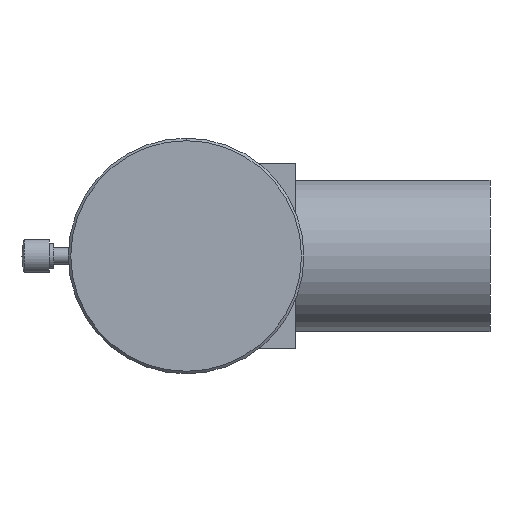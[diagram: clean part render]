
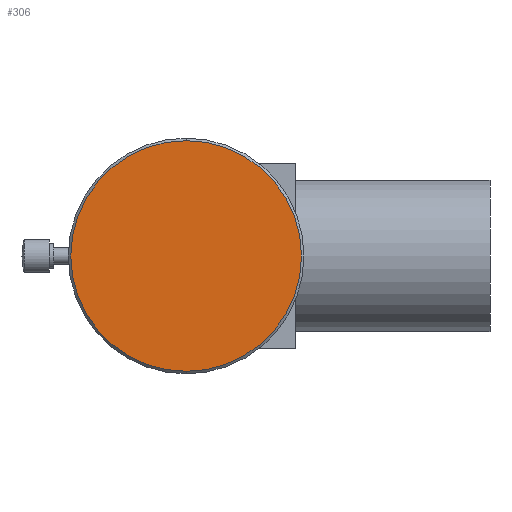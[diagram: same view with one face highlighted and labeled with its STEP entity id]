
A CAD part, left-side view. The second image highlights one B-rep face of the part: STEP entity #306.
In plain terms, the highlighted planar face has unit normal (-1, 0, 0).
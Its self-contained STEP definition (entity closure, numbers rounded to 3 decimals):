
#24 = CARTESIAN_POINT ( 'NONE',  ( 0., 0., 13.7 ) ) ;
#68 = CARTESIAN_POINT ( 'NONE',  ( 0., 0., 0. ) ) ;
#146 = CIRCLE ( 'NONE', #1113, 13.7 ) ;
#306 = ADVANCED_FACE ( 'NONE', ( #758 ), #1352, .F. ) ;
#385 = DIRECTION ( 'NONE',  ( 1., 0., 0. ) ) ;
#392 = ORIENTED_EDGE ( 'NONE', *, *, #1279, .T. ) ;
#396 = DIRECTION ( 'NONE',  ( -1., 0., 0. ) ) ;
#466 = CIRCLE ( 'NONE', #1152, 13.7 ) ;
#505 = CARTESIAN_POINT ( 'NONE',  ( 0., 0., -13.7 ) ) ;
#507 = VERTEX_POINT ( 'NONE', #505 ) ;
#640 = ORIENTED_EDGE ( 'NONE', *, *, #1328, .T. ) ;
#679 = VERTEX_POINT ( 'NONE', #24 ) ;
#758 = FACE_OUTER_BOUND ( 'NONE', #1174, .T. ) ;
#888 = DIRECTION ( 'NONE',  ( -1., 0., 0. ) ) ;
#925 = DIRECTION ( 'NONE',  ( 0., 0., 1. ) ) ;
#1009 = DIRECTION ( 'NONE',  ( 0., 0., 1. ) ) ;
#1100 = CARTESIAN_POINT ( 'NONE',  ( 0., 0., 0. ) ) ;
#1113 = AXIS2_PLACEMENT_3D ( 'NONE', #1100, #888, #1009 ) ;
#1119 = AXIS2_PLACEMENT_3D ( 'NONE', #1238, #385, #1245 ) ;
#1152 = AXIS2_PLACEMENT_3D ( 'NONE', #68, #396, #925 ) ;
#1174 = EDGE_LOOP ( 'NONE', ( #640, #392 ) ) ;
#1238 = CARTESIAN_POINT ( 'NONE',  ( 0., 0., 0. ) ) ;
#1245 = DIRECTION ( 'NONE',  ( 0., 0., -1. ) ) ;
#1279 = EDGE_CURVE ( 'NONE', #679, #507, #146, .T. ) ;
#1328 = EDGE_CURVE ( 'NONE', #507, #679, #466, .T. ) ;
#1352 = PLANE ( 'NONE',  #1119 ) ;
